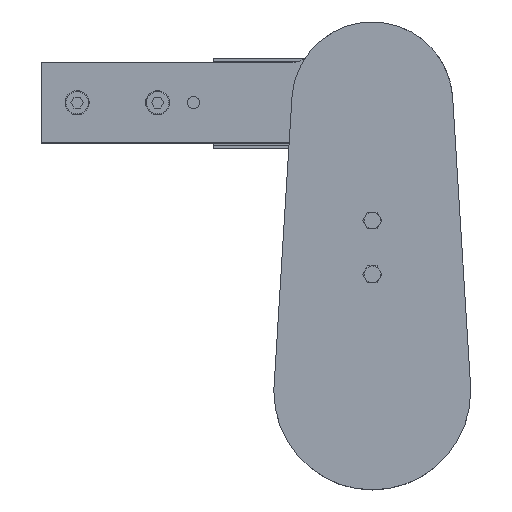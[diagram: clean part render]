
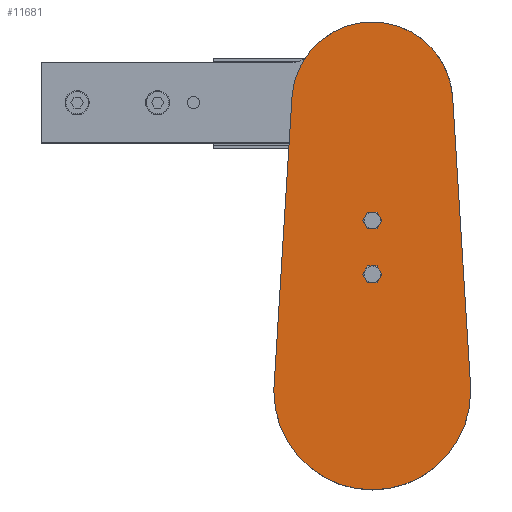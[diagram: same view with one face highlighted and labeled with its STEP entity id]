
A CAD part, top view. The second image highlights one B-rep face of the part: STEP entity #11681.
In plain terms, the highlighted planar face has unit normal (0, 0, 1) as drawn and (0, 0, -1) by its records, which use the part's own axes.
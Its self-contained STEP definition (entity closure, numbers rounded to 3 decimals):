
#116 = VECTOR ( 'NONE', #1206, 1000. ) ;
#170 = CARTESIAN_POINT ( 'NONE',  ( -55., 0., 0. ) ) ;
#1206 = DIRECTION ( 'NONE',  ( -0.062, 0.998, 0. ) ) ;
#1242 = EDGE_CURVE ( 'NONE', #26264, #27012, #14394, .T. ) ;
#1490 = VERTEX_POINT ( 'NONE', #25760 ) ;
#1588 = CIRCLE ( 'NONE', #6090, 3.5 ) ;
#2359 = EDGE_CURVE ( 'NONE', #1490, #5685, #4314, .T. ) ;
#2681 = AXIS2_PLACEMENT_3D ( 'NONE', #27226, #17421, #24225 ) ;
#2743 = CARTESIAN_POINT ( 'NONE',  ( -54.894, 3.406, 0. ) ) ;
#4129 = EDGE_CURVE ( 'NONE', #20461, #12065, #21318, .T. ) ;
#4314 = CIRCLE ( 'NONE', #6606, 55. ) ;
#4523 = CARTESIAN_POINT ( 'NONE',  ( 0., 95.5, 0. ) ) ;
#5167 = AXIS2_PLACEMENT_3D ( 'NONE', #36312, #29680, #23174 ) ;
#5534 = EDGE_CURVE ( 'NONE', #12065, #20461, #1588, .T. ) ;
#5652 = EDGE_CURVE ( 'NONE', #17767, #7764, #13149, .T. ) ;
#5685 = VERTEX_POINT ( 'NONE', #34132 ) ;
#6090 = AXIS2_PLACEMENT_3D ( 'NONE', #19728, #26261, #23276 ) ;
#6606 = AXIS2_PLACEMENT_3D ( 'NONE', #24641, #31007, #18119 ) ;
#7764 = VERTEX_POINT ( 'NONE', #39449 ) ;
#7792 = CARTESIAN_POINT ( 'NONE',  ( 0., 95.5, 0. ) ) ;
#8217 = CARTESIAN_POINT ( 'NONE',  ( 44.914, 164.286, 0. ) ) ;
#8259 = AXIS2_PLACEMENT_3D ( 'NONE', #4523, #33851, #30349 ) ;
#8332 = ORIENTED_EDGE ( 'NONE', *, *, #5534, .F. ) ;
#9142 = CARTESIAN_POINT ( 'NONE',  ( -44.914, 164.286, 0. ) ) ;
#10012 = EDGE_CURVE ( 'NONE', #5685, #24673, #35453, .T. ) ;
#10756 = DIRECTION ( 'NONE',  ( 0., 0., -1. ) ) ;
#10840 = EDGE_CURVE ( 'NONE', #24673, #26264, #24294, .T. ) ;
#11496 = CARTESIAN_POINT ( 'NONE',  ( -44.914, 164.286, 0. ) ) ;
#11522 = ORIENTED_EDGE ( 'NONE', *, *, #2359, .F. ) ;
#11534 = CARTESIAN_POINT ( 'NONE',  ( 0., 65.5, 0. ) ) ;
#11681 = ADVANCED_FACE ( 'NONE', ( #34827, #40868, #37835 ), #37214, .F. ) ;
#12065 = VERTEX_POINT ( 'NONE', #32136 ) ;
#13149 = CIRCLE ( 'NONE', #8259, 3.5 ) ;
#14166 = EDGE_CURVE ( 'NONE', #7764, #17767, #24000, .T. ) ;
#14394 = LINE ( 'NONE', #9142, #28566 ) ;
#14617 = DIRECTION ( 'NONE',  ( 1., 0., 0. ) ) ;
#14678 = CARTESIAN_POINT ( 'NONE',  ( 44.914, 164.286, 0. ) ) ;
#14757 = CARTESIAN_POINT ( 'NONE',  ( 0., 161.5, 0. ) ) ;
#16293 = DIRECTION ( 'NONE',  ( 1., 0., 0. ) ) ;
#17142 = CARTESIAN_POINT ( 'NONE',  ( -3.5, 95.5, 0. ) ) ;
#17421 = DIRECTION ( 'NONE',  ( 0., 0., 1. ) ) ;
#17767 = VERTEX_POINT ( 'NONE', #17142 ) ;
#18119 = DIRECTION ( 'NONE',  ( 1., 0., 0. ) ) ;
#19206 = EDGE_CURVE ( 'NONE', #27012, #24956, #40716, .T. ) ;
#19728 = CARTESIAN_POINT ( 'NONE',  ( 0., 65.5, 0. ) ) ;
#20104 = AXIS2_PLACEMENT_3D ( 'NONE', #11534, #26359, #26084 ) ;
#20338 = AXIS2_PLACEMENT_3D ( 'NONE', #7792, #10756, #30370 ) ;
#20461 = VERTEX_POINT ( 'NONE', #25671 ) ;
#21318 = CIRCLE ( 'NONE', #20104, 3.5 ) ;
#21406 = EDGE_LOOP ( 'NONE', ( #32009, #40818 ) ) ;
#21888 = AXIS2_PLACEMENT_3D ( 'NONE', #32421, #35670, #16293 ) ;
#22332 = ORIENTED_EDGE ( 'NONE', *, *, #19206, .F. ) ;
#23174 = DIRECTION ( 'NONE',  ( 1., 0., 0. ) ) ;
#23276 = DIRECTION ( 'NONE',  ( 1., 0., 0. ) ) ;
#24000 = CIRCLE ( 'NONE', #20338, 3.5 ) ;
#24225 = DIRECTION ( 'NONE',  ( 1., 0., 0. ) ) ;
#24294 = CIRCLE ( 'NONE', #5167, 45. ) ;
#24641 = CARTESIAN_POINT ( 'NONE',  ( 0., 0., 0. ) ) ;
#24659 = ORIENTED_EDGE ( 'NONE', *, *, #10840, .F. ) ;
#24673 = VERTEX_POINT ( 'NONE', #14678 ) ;
#24956 = VERTEX_POINT ( 'NONE', #170 ) ;
#25503 = EDGE_CURVE ( 'NONE', #24956, #1490, #28665, .T. ) ;
#25671 = CARTESIAN_POINT ( 'NONE',  ( 3.5, 65.5, 0. ) ) ;
#25760 = CARTESIAN_POINT ( 'NONE',  ( 55., 0., 0. ) ) ;
#25992 = AXIS2_PLACEMENT_3D ( 'NONE', #14757, #33830, #14617 ) ;
#26084 = DIRECTION ( 'NONE',  ( 1., 0., 0. ) ) ;
#26261 = DIRECTION ( 'NONE',  ( 0., 0., -1. ) ) ;
#26264 = VERTEX_POINT ( 'NONE', #11496 ) ;
#26359 = DIRECTION ( 'NONE',  ( 0., 0., -1. ) ) ;
#27012 = VERTEX_POINT ( 'NONE', #2743 ) ;
#27226 = CARTESIAN_POINT ( 'NONE',  ( 0., 0., 0. ) ) ;
#27721 = ORIENTED_EDGE ( 'NONE', *, *, #4129, .F. ) ;
#28566 = VECTOR ( 'NONE', #34954, 1000. ) ;
#28665 = CIRCLE ( 'NONE', #2681, 55. ) ;
#29680 = DIRECTION ( 'NONE',  ( 0., 0., 1. ) ) ;
#30349 = DIRECTION ( 'NONE',  ( 1., 0., 0. ) ) ;
#30370 = DIRECTION ( 'NONE',  ( 1., 0., 0. ) ) ;
#31007 = DIRECTION ( 'NONE',  ( 0., 0., 1. ) ) ;
#31513 = EDGE_LOOP ( 'NONE', ( #24659, #40547, #11522, #32710, #22332, #39486 ) ) ;
#32009 = ORIENTED_EDGE ( 'NONE', *, *, #14166, .F. ) ;
#32136 = CARTESIAN_POINT ( 'NONE',  ( -3.5, 65.5, 0. ) ) ;
#32421 = CARTESIAN_POINT ( 'NONE',  ( 0., 0., 0. ) ) ;
#32710 = ORIENTED_EDGE ( 'NONE', *, *, #25503, .F. ) ;
#33830 = DIRECTION ( 'NONE',  ( 0., 0., 1. ) ) ;
#33851 = DIRECTION ( 'NONE',  ( 0., 0., -1. ) ) ;
#34132 = CARTESIAN_POINT ( 'NONE',  ( 54.894, 3.406, 0. ) ) ;
#34827 = FACE_BOUND ( 'NONE', #21406, .T. ) ;
#34954 = DIRECTION ( 'NONE',  ( -0.062, -0.998, 0. ) ) ;
#35453 = LINE ( 'NONE', #8217, #116 ) ;
#35670 = DIRECTION ( 'NONE',  ( 0., 0., 1. ) ) ;
#36312 = CARTESIAN_POINT ( 'NONE',  ( 0., 161.5, 0. ) ) ;
#37214 = PLANE ( 'NONE',  #25992 ) ;
#37835 = FACE_OUTER_BOUND ( 'NONE', #31513, .T. ) ;
#39449 = CARTESIAN_POINT ( 'NONE',  ( 3.5, 95.5, 0. ) ) ;
#39486 = ORIENTED_EDGE ( 'NONE', *, *, #1242, .F. ) ;
#39538 = EDGE_LOOP ( 'NONE', ( #27721, #8332 ) ) ;
#40547 = ORIENTED_EDGE ( 'NONE', *, *, #10012, .F. ) ;
#40716 = CIRCLE ( 'NONE', #21888, 55. ) ;
#40818 = ORIENTED_EDGE ( 'NONE', *, *, #5652, .F. ) ;
#40868 = FACE_BOUND ( 'NONE', #39538, .T. ) ;
